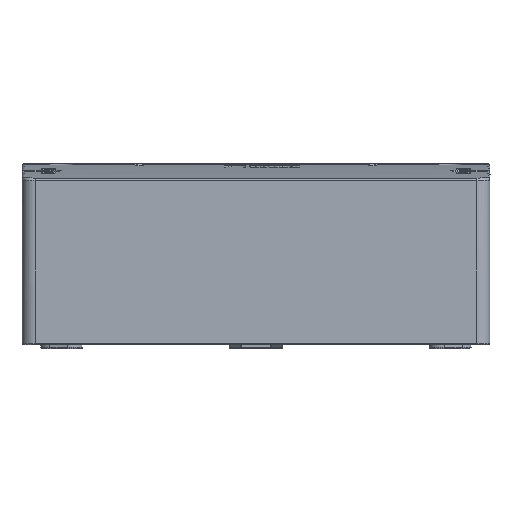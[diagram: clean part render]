
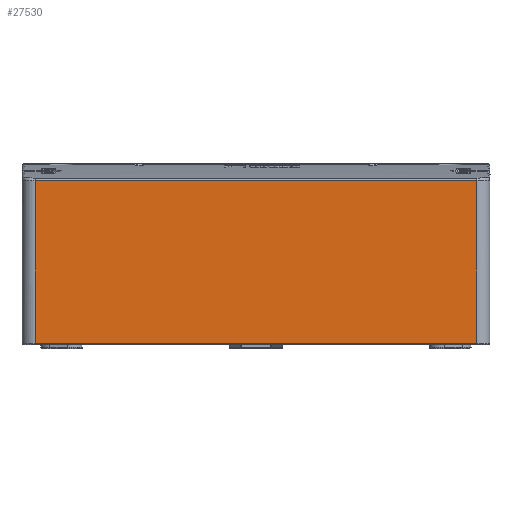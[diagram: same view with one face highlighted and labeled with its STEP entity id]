
A CAD part, front view. The second image highlights one B-rep face of the part: STEP entity #27530.
In plain terms, the highlighted planar face has unit normal (0, -1, 0) as drawn and (-1, 0, 0) by its records, which use the part's own axes.
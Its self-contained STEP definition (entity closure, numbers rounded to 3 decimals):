
#133 = VERTEX_POINT ( 'NONE', #56887 ) ;
#227 = DIRECTION ( 'NONE',  ( 1., 0., 0. ) ) ;
#501 = EDGE_CURVE ( 'NONE', #28932, #5261, #16478, .T. ) ;
#3824 = CARTESIAN_POINT ( 'NONE',  ( 0., 5., 9.57 ) ) ;
#4251 = FACE_OUTER_BOUND ( 'NONE', #15599, .T. ) ;
#5114 = DIRECTION ( 'NONE',  ( 0., 0., -1. ) ) ;
#5261 = VERTEX_POINT ( 'NONE', #20916 ) ;
#6511 = ORIENTED_EDGE ( 'NONE', *, *, #41168, .T. ) ;
#10924 = CARTESIAN_POINT ( 'NONE',  ( 0., 172., 71.059 ) ) ;
#11350 = EDGE_CURVE ( 'NONE', #49666, #133, #28459, .T. ) ;
#15599 = EDGE_LOOP ( 'NONE', ( #34464, #6511, #19200, #21200 ) ) ;
#16478 = LINE ( 'NONE', #25068, #28330 ) ;
#18347 = CARTESIAN_POINT ( 'NONE',  ( 0., 172., 71.059 ) ) ;
#19102 = DIRECTION ( 'NONE',  ( 0., 1., 0. ) ) ;
#19200 = ORIENTED_EDGE ( 'NONE', *, *, #501, .T. ) ;
#20916 = CARTESIAN_POINT ( 'NONE',  ( 0., 5., 71.059 ) ) ;
#21200 = ORIENTED_EDGE ( 'NONE', *, *, #49922, .T. ) ;
#21251 = CARTESIAN_POINT ( 'NONE',  ( 0., 5., 9.57 ) ) ;
#25068 = CARTESIAN_POINT ( 'NONE',  ( 0., 5., 77. ) ) ;
#27530 = ADVANCED_FACE ( 'NONE', ( #4251 ), #52408, .F. ) ;
#28330 = VECTOR ( 'NONE', #73115, 1000. ) ;
#28397 = CARTESIAN_POINT ( 'NONE',  ( 0., 172., 77. ) ) ;
#28459 = LINE ( 'NONE', #28397, #37628 ) ;
#28932 = VERTEX_POINT ( 'NONE', #3824 ) ;
#34464 = ORIENTED_EDGE ( 'NONE', *, *, #11350, .T. ) ;
#37628 = VECTOR ( 'NONE', #5114, 1000. ) ;
#39224 = VECTOR ( 'NONE', #19102, 1000. ) ;
#41168 = EDGE_CURVE ( 'NONE', #133, #28932, #71958, .T. ) ;
#44515 = VECTOR ( 'NONE', #62163, 1000. ) ;
#46037 = DIRECTION ( 'NONE',  ( 0., 1., 0. ) ) ;
#49666 = VERTEX_POINT ( 'NONE', #10924 ) ;
#49922 = EDGE_CURVE ( 'NONE', #5261, #49666, #56605, .T. ) ;
#52408 = PLANE ( 'NONE',  #53166 ) ;
#53166 = AXIS2_PLACEMENT_3D ( 'NONE', #70276, #227, #46037 ) ;
#56605 = LINE ( 'NONE', #18347, #39224 ) ;
#56887 = CARTESIAN_POINT ( 'NONE',  ( 0., 172., 9.57 ) ) ;
#62163 = DIRECTION ( 'NONE',  ( 0., -1., 0. ) ) ;
#70276 = CARTESIAN_POINT ( 'NONE',  ( 0., 0., 77. ) ) ;
#71958 = LINE ( 'NONE', #21251, #44515 ) ;
#73115 = DIRECTION ( 'NONE',  ( 0., 0., 1. ) ) ;
